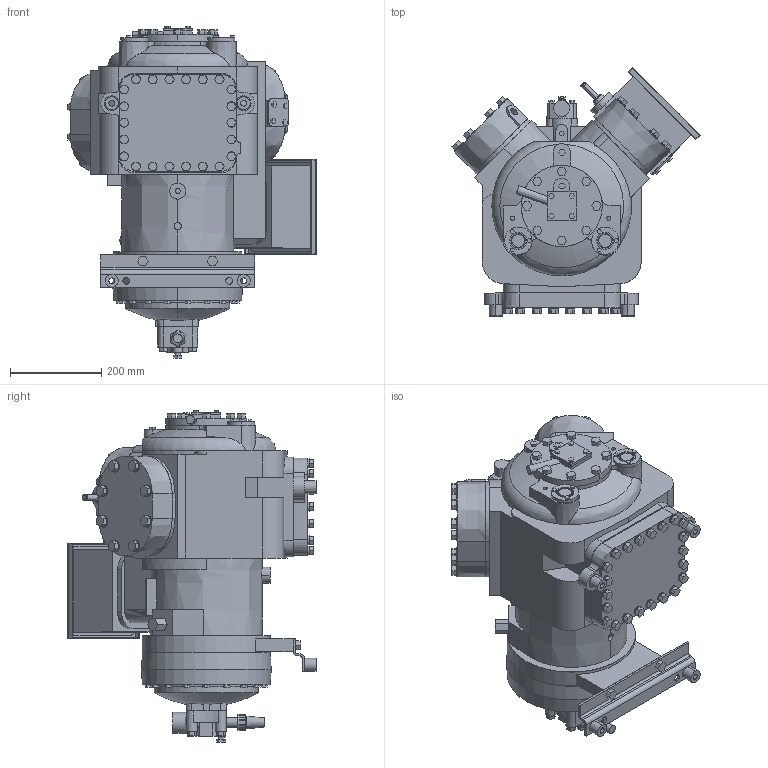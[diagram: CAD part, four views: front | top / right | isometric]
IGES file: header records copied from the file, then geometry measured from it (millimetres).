
Start section:  PTC IGES file: 06e41es0s_sv_sw0001.igs
Global section: file name: 06e41es0s_sv_sw0001.igs; native system: Pro/ENGINEER by Parametric Technology Corporation; preprocessor: 2001280; author: kannanb; organization: Unknown; date: 040122.153002; units: inch
Bounding box: 543.72 x 543.58 x 727.48 mm (x, y, z)
Surface area: 1769042.1 mm2 (no closed solid volume)
Topology: 0 solids, 0 shells, 1254 faces, 6270 edges, 6270 vertices
Faces by surface type: bspline 936, revolution 318
